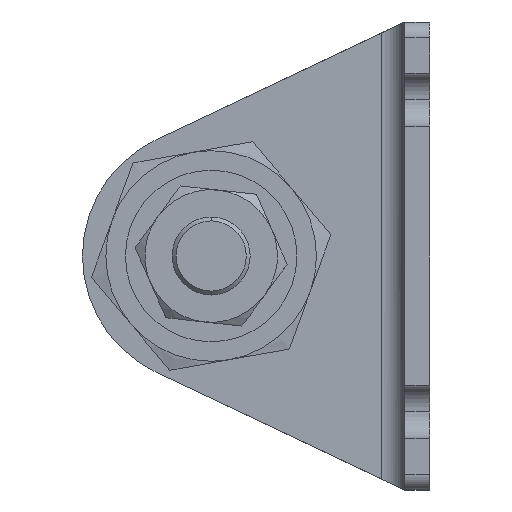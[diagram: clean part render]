
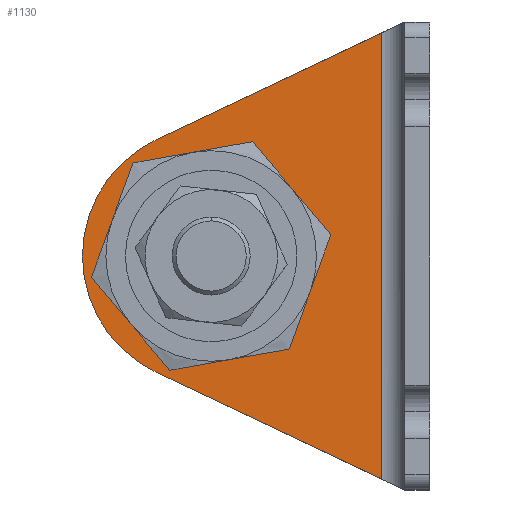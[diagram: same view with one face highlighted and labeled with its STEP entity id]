
A CAD part, left-side view. The second image highlights one B-rep face of the part: STEP entity #1130.
In plain terms, the highlighted planar face has unit normal (-1, 0, 0) as drawn and (1, 0, 0) by its records, which use the part's own axes.
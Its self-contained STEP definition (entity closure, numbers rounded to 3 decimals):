
#102 = CARTESIAN_POINT ( 'NONE',  ( 3.2, 3.2, -60. ) ) ;
#183 = DIRECTION ( 'NONE',  ( 0., 1., 0. ) ) ;
#197 = DIRECTION ( 'NONE',  ( 0., 0.904, -0.428 ) ) ;
#220 = CIRCLE ( 'NONE', #2451, 16.5 ) ;
#260 = VERTEX_POINT ( 'NONE', #2041 ) ;
#388 = VERTEX_POINT ( 'NONE', #1646 ) ;
#397 = CARTESIAN_POINT ( 'NONE',  ( 3.2, 28., -30. ) ) ;
#610 = VERTEX_POINT ( 'NONE', #2101 ) ;
#615 = DIRECTION ( 'NONE',  ( 0., 0., -1. ) ) ;
#673 = CARTESIAN_POINT ( 'NONE',  ( 3.2, 6.2, -1.421 ) ) ;
#693 = ORIENTED_EDGE ( 'NONE', *, *, #2447, .F. ) ;
#734 = EDGE_CURVE ( 'NONE', #3277, #3824, #1328, .T. ) ;
#769 = EDGE_LOOP ( 'NONE', ( #853, #693 ) ) ;
#809 = DIRECTION ( 'NONE',  ( 1., 0., 0. ) ) ;
#839 = DIRECTION ( 'NONE',  ( 1., 0., 0. ) ) ;
#853 = ORIENTED_EDGE ( 'NONE', *, *, #3168, .F. ) ;
#1094 = CIRCLE ( 'NONE', #1939, 11.5 ) ;
#1130 = ADVANCED_FACE ( 'NONE', ( #1841, #4221 ), #2448, .T. ) ;
#1142 = VERTEX_POINT ( 'NONE', #3010 ) ;
#1206 = CARTESIAN_POINT ( 'NONE',  ( 3.2, 28., -30. ) ) ;
#1314 = LINE ( 'NONE', #102, #1779 ) ;
#1328 = LINE ( 'NONE', #1855, #4446 ) ;
#1359 = DIRECTION ( 'NONE',  ( 0., 1., 0. ) ) ;
#1493 = DIRECTION ( 'NONE',  ( 1., 0., 0. ) ) ;
#1541 = ORIENTED_EDGE ( 'NONE', *, *, #4553, .T. ) ;
#1622 = VERTEX_POINT ( 'NONE', #2200 ) ;
#1646 = CARTESIAN_POINT ( 'NONE',  ( 3.2, 39.5, -30. ) ) ;
#1776 = EDGE_CURVE ( 'NONE', #1622, #610, #4386, .T. ) ;
#1779 = VECTOR ( 'NONE', #3309, 1000. ) ;
#1841 = FACE_OUTER_BOUND ( 'NONE', #4075, .T. ) ;
#1855 = CARTESIAN_POINT ( 'NONE',  ( 3.2, 26.408, -10.99 ) ) ;
#1939 = AXIS2_PLACEMENT_3D ( 'NONE', #4526, #1493, #2166 ) ;
#1949 = AXIS2_PLACEMENT_3D ( 'NONE', #397, #3139, #3595 ) ;
#2041 = CARTESIAN_POINT ( 'NONE',  ( 3.2, 16.5, -30. ) ) ;
#2085 = CIRCLE ( 'NONE', #1949, 11.5 ) ;
#2101 = CARTESIAN_POINT ( 'NONE',  ( 3.2, 44.5, -30. ) ) ;
#2166 = DIRECTION ( 'NONE',  ( 0., 1., 0. ) ) ;
#2200 = CARTESIAN_POINT ( 'NONE',  ( 3.2, 35.062, -44.913 ) ) ;
#2219 = ORIENTED_EDGE ( 'NONE', *, *, #2906, .T. ) ;
#2405 = VECTOR ( 'NONE', #615, 1000. ) ;
#2447 = EDGE_CURVE ( 'NONE', #260, #388, #2085, .T. ) ;
#2448 = PLANE ( 'NONE',  #4297 ) ;
#2451 = AXIS2_PLACEMENT_3D ( 'NONE', #1206, #839, #1359 ) ;
#2458 = EDGE_CURVE ( 'NONE', #3277, #1142, #3054, .T. ) ;
#2717 = DIRECTION ( 'NONE',  ( 0., 1., 0. ) ) ;
#2869 = AXIS2_PLACEMENT_3D ( 'NONE', #2991, #4432, #2717 ) ;
#2906 = EDGE_CURVE ( 'NONE', #610, #3824, #220, .T. ) ;
#2991 = CARTESIAN_POINT ( 'NONE',  ( 3.2, 28., -30. ) ) ;
#3010 = CARTESIAN_POINT ( 'NONE',  ( 3.2, 6.2, -58.579 ) ) ;
#3054 = LINE ( 'NONE', #3518, #2405 ) ;
#3097 = CARTESIAN_POINT ( 'NONE',  ( 3.2, 3.2, -60. ) ) ;
#3139 = DIRECTION ( 'NONE',  ( 1., 0., 0. ) ) ;
#3168 = EDGE_CURVE ( 'NONE', #388, #260, #1094, .T. ) ;
#3277 = VERTEX_POINT ( 'NONE', #673 ) ;
#3309 = DIRECTION ( 'NONE',  ( 0., 0.904, 0.428 ) ) ;
#3379 = ORIENTED_EDGE ( 'NONE', *, *, #734, .F. ) ;
#3518 = CARTESIAN_POINT ( 'NONE',  ( 3.2, 6.2, -60. ) ) ;
#3595 = DIRECTION ( 'NONE',  ( 0., 1., 0. ) ) ;
#3824 = VERTEX_POINT ( 'NONE', #4444 ) ;
#4075 = EDGE_LOOP ( 'NONE', ( #3379, #4353, #1541, #4302, #2219 ) ) ;
#4221 = FACE_BOUND ( 'NONE', #769, .T. ) ;
#4297 = AXIS2_PLACEMENT_3D ( 'NONE', #3097, #809, #183 ) ;
#4302 = ORIENTED_EDGE ( 'NONE', *, *, #1776, .T. ) ;
#4353 = ORIENTED_EDGE ( 'NONE', *, *, #2458, .T. ) ;
#4386 = CIRCLE ( 'NONE', #2869, 16.5 ) ;
#4432 = DIRECTION ( 'NONE',  ( 1., 0., 0. ) ) ;
#4444 = CARTESIAN_POINT ( 'NONE',  ( 3.2, 35.062, -15.087 ) ) ;
#4446 = VECTOR ( 'NONE', #197, 1000. ) ;
#4526 = CARTESIAN_POINT ( 'NONE',  ( 3.2, 28., -30. ) ) ;
#4553 = EDGE_CURVE ( 'NONE', #1142, #1622, #1314, .T. ) ;
